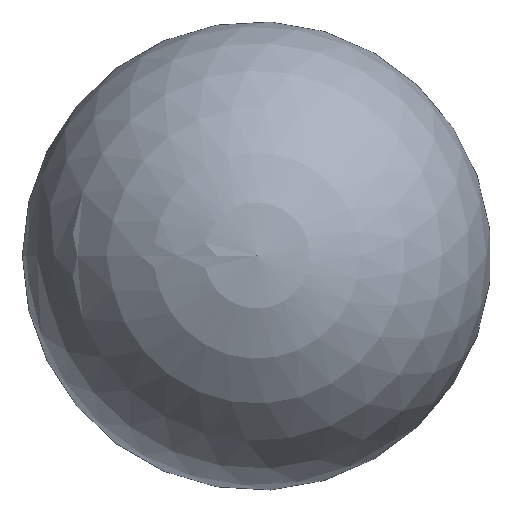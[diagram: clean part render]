
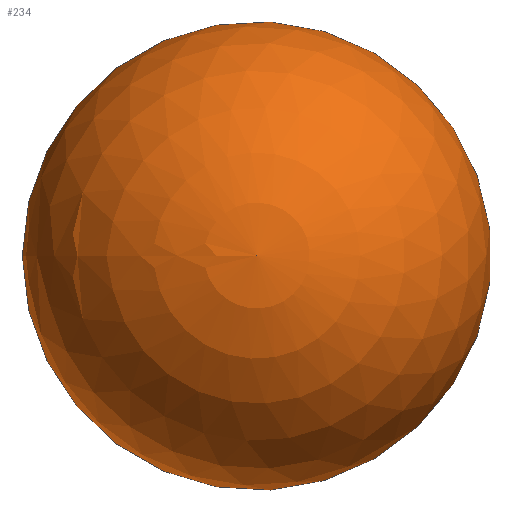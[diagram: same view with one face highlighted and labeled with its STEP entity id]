
A CAD part, top view. The second image highlights one B-rep face of the part: STEP entity #234.
In plain terms, the highlighted spherical face has radius 500 mm.
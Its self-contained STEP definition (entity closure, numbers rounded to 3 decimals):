
#20=SPHERICAL_SURFACE('',#298,500.);
#56=FACE_OUTER_BOUND('',#74,.T.);
#74=EDGE_LOOP('',(#214,#215,#216));
#109=CIRCLE('',#297,90.);
#110=CIRCLE('',#299,500.);
#128=VERTEX_POINT('',#453);
#129=VERTEX_POINT('',#457);
#157=EDGE_CURVE('',#128,#128,#109,.T.);
#158=EDGE_CURVE('',#129,#128,#110,.T.);
#214=ORIENTED_EDGE('',*,*,#157,.T.);
#215=ORIENTED_EDGE('',*,*,#158,.F.);
#216=ORIENTED_EDGE('',*,*,#158,.T.);
#234=ADVANCED_FACE('',(#56),#20,.T.);
#297=AXIS2_PLACEMENT_3D('',#455,#383,#384);
#298=AXIS2_PLACEMENT_3D('',#456,#385,#386);
#299=AXIS2_PLACEMENT_3D('',#458,#387,#388);
#383=DIRECTION('center_axis',(0.,0.,1.));
#384=DIRECTION('ref_axis',(1.,0.,0.));
#385=DIRECTION('center_axis',(0.,0.,1.));
#386=DIRECTION('ref_axis',(1.,0.,0.));
#387=DIRECTION('center_axis',(0.,-1.,0.));
#388=DIRECTION('ref_axis',(-1.,0.,0.));
#453=CARTESIAN_POINT('',(-90.,0.,0.));
#455=CARTESIAN_POINT('Origin',(0.,0.,0.));
#456=CARTESIAN_POINT('Origin',(0.,0.,491.833));
#457=CARTESIAN_POINT('',(0.,0.,991.833));
#458=CARTESIAN_POINT('Origin',(0.,0.,491.833));
